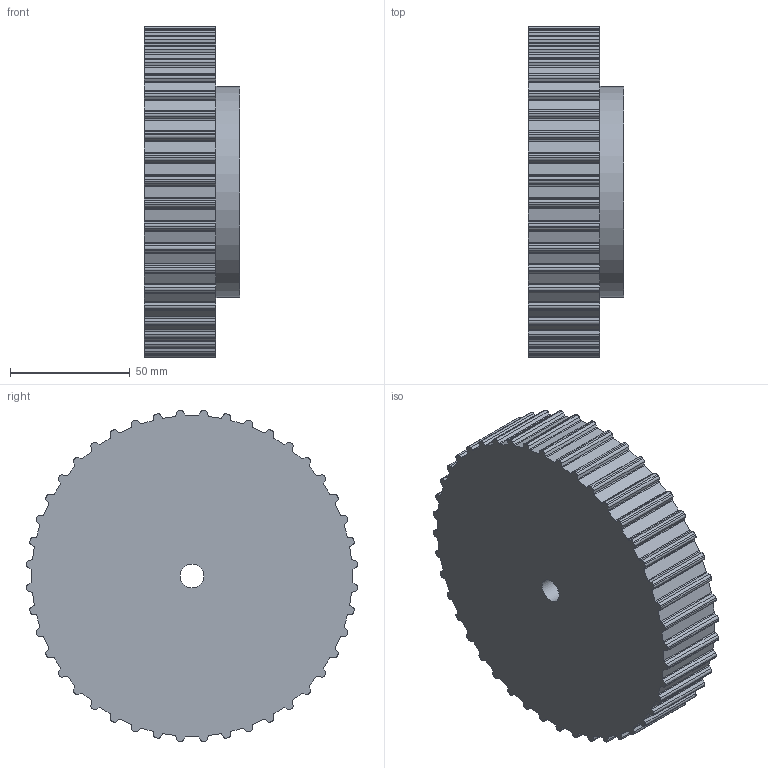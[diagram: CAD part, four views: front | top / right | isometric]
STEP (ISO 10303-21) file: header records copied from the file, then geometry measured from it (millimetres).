
FILE_DESCRIPTION( ( 'STEP AP203' ), '1' );
FILE_NAME( 'C:/Users/Stangenbergd/Documents/CAD_Step/1/16834400.stp', '2020-09-13T09:26:28', ( 'License CC BY-ND 4.0' ), ( 'CADENAS' ), ' ', 'PARTsolutions', ' ' );
FILE_SCHEMA( ( 'CONFIG_CONTROL_DESIGN' ) );
Length unit declared in the file: millimetre
Products named in the file (1): _16834400
Bounding box: 40 x 137.94 x 137.94 mm (x, y, z)
Volume: 487876.4 mm3; surface area: 48639.6 mm2
Topology: 1 solids, 1 shells, 357 faces, 1062 edges, 708 vertices
Faces by surface type: cylinder 222, plane 135
Full cylindrical faces by diameter (mm): 10 x1, 88 x1
Entity records: 12198 total; most frequent: DIRECTION 2220, CARTESIAN_POINT 2126, ORIENTED_EDGE 2120, EDGE_CURVE 1060, AXIS2_PLACEMENT_3D 802, VERTEX_POINT 708, LINE 616, VECTOR 616
